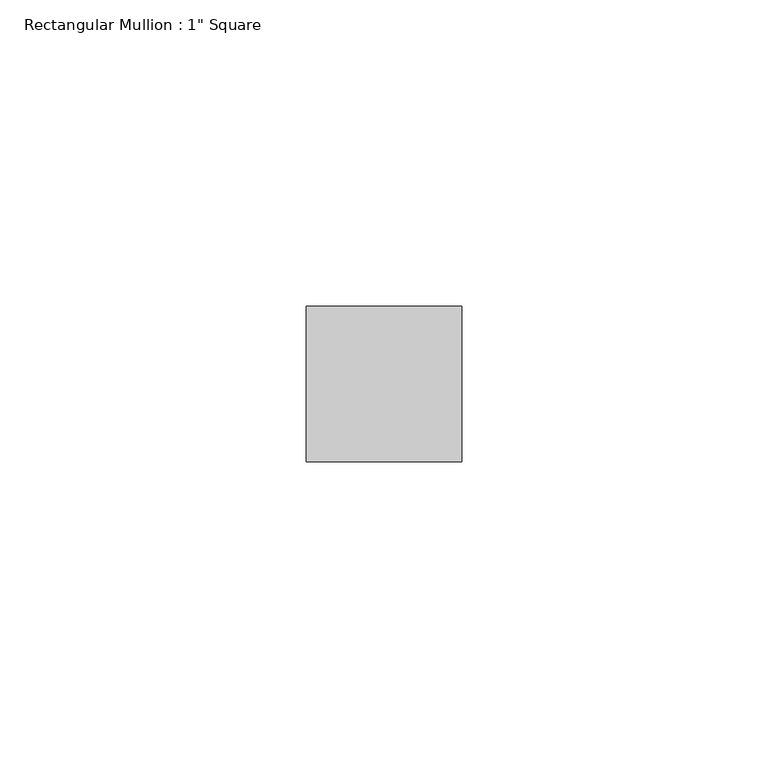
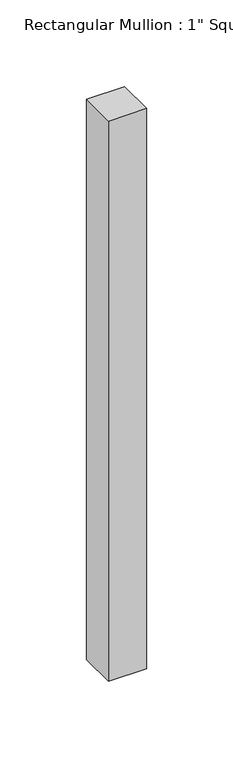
"""IFC4 building model written with IfcOpenShell, lengths in millimetres: member geometry."""

from ifc_helpers import new_model, si_unit, frame, origin, place, context, project, spatial, polyline, outline, extrude, source, transform, mapped, element, save


def member_80103e86(model_context):
    return source(origin(), model_context, "Body", "SweptSolid", [
        extrude(outline(polyline([(12.7, 12.7), (12.7, -12.7), (-12.7, -12.7), (-12.7, 12.7), (12.7, 12.7)])), frame((0.0, 0.0, -394.8169828), z_axis=(0.0, 0.0, 1.0), x_axis=(1.0, 0.0, 0.0)), (0.0, 0.0, 1.0), 394.8169828),
    ])


if __name__ == "__main__":
    model = new_model("IFC4")
    model_context = context("Model", 3, world=origin())
    ifc_project = project(units=[si_unit("LENGTHUNIT", "METRE", prefix="MILLI")], contexts=[model_context])
    site = spatial("IfcSite", under=ifc_project)
    building = spatial("IfcBuilding", under=site)
    placement = place(None, origin())
    member_shape = member_80103e86(model_context)
    element("IfcMember", 1, ObjectType="Rectangular Mullion : 1\" Square", at=placement, inside=building, context=model_context, shape_type="MappedRepresentation", body=[
        mapped(member_shape, transform((0.0, 0.0, 0.0), x_axis=(1.0, 0.0, 0.0), y_axis=(0.0, 1.0, 0.0), z_axis=(0.0, 0.0, 1.0))),
    ])
    save(model, "model.ifc")
